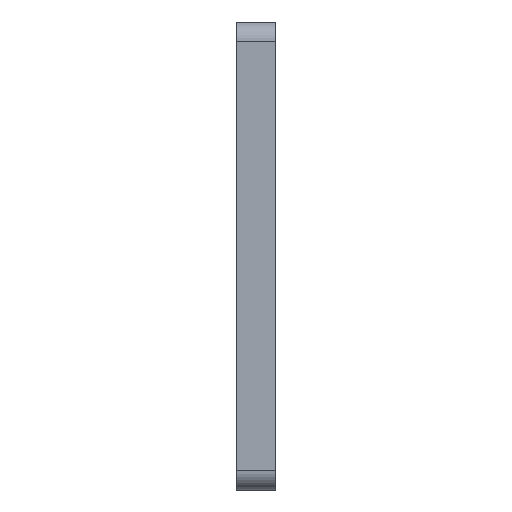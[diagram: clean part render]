
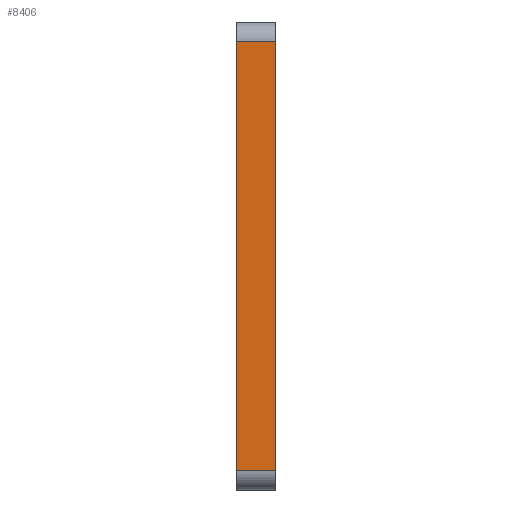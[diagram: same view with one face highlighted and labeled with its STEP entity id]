
A CAD part, left-side view. The second image highlights one B-rep face of the part: STEP entity #8406.
In plain terms, the highlighted planar face has unit normal (-1, 0, 0).
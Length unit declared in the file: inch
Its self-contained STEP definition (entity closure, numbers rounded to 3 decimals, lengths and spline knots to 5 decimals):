
#893 = LINE ( 'NONE', #4911, #11626 ) ;
#903 = VERTEX_POINT ( 'NONE', #6613 ) ;
#1820 = EDGE_CURVE ( 'NONE', #903, #2501, #6096, .T. ) ;
#2080 = DIRECTION ( 'NONE',  ( -1., 0., 0. ) ) ;
#2501 = VERTEX_POINT ( 'NONE', #10980 ) ;
#2995 = DIRECTION ( 'NONE',  ( 0., 0., 1. ) ) ;
#2998 = EDGE_CURVE ( 'NONE', #2501, #8758, #7030, .T. ) ;
#3398 = EDGE_CURVE ( 'NONE', #4552, #8758, #893, .T. ) ;
#3435 = VECTOR ( 'NONE', #10118, 39.37008 ) ;
#3464 = ORIENTED_EDGE ( 'NONE', *, *, #3398, .F. ) ;
#3520 = EDGE_LOOP ( 'NONE', ( #3464, #7327, #4851, #4670 ) ) ;
#3700 = VECTOR ( 'NONE', #6038, 39.37008 ) ;
#3712 = AXIS2_PLACEMENT_3D ( 'NONE', #5107, #2080, #2995 ) ;
#3720 = VECTOR ( 'NONE', #7229, 39.37008 ) ;
#4360 = EDGE_CURVE ( 'NONE', #903, #4552, #9214, .T. ) ;
#4552 = VERTEX_POINT ( 'NONE', #8054 ) ;
#4670 = ORIENTED_EDGE ( 'NONE', *, *, #2998, .T. ) ;
#4851 = ORIENTED_EDGE ( 'NONE', *, *, #1820, .T. ) ;
#4911 = CARTESIAN_POINT ( 'NONE',  ( -5., 0.25, -1.375 ) ) ;
#4967 = CARTESIAN_POINT ( 'NONE',  ( -5., 0.25, 1.375 ) ) ;
#5107 = CARTESIAN_POINT ( 'NONE',  ( -5., 0., -1.375 ) ) ;
#6038 = DIRECTION ( 'NONE',  ( 0., 1., 0. ) ) ;
#6096 = LINE ( 'NONE', #11105, #3435 ) ;
#6613 = CARTESIAN_POINT ( 'NONE',  ( -5., 0., -1.375 ) ) ;
#7030 = LINE ( 'NONE', #9829, #3700 ) ;
#7229 = DIRECTION ( 'NONE',  ( 0., 1., 0. ) ) ;
#7327 = ORIENTED_EDGE ( 'NONE', *, *, #4360, .F. ) ;
#8054 = CARTESIAN_POINT ( 'NONE',  ( -5., 0.25, -1.375 ) ) ;
#8406 = ADVANCED_FACE ( 'NONE', ( #10178 ), #12085, .T. ) ;
#8758 = VERTEX_POINT ( 'NONE', #4967 ) ;
#8937 = DIRECTION ( 'NONE',  ( 0., 0., 1. ) ) ;
#8960 = CARTESIAN_POINT ( 'NONE',  ( -5., 0., -1.375 ) ) ;
#9214 = LINE ( 'NONE', #8960, #3720 ) ;
#9829 = CARTESIAN_POINT ( 'NONE',  ( -5., 0., 1.375 ) ) ;
#10118 = DIRECTION ( 'NONE',  ( 0., 0., 1. ) ) ;
#10178 = FACE_OUTER_BOUND ( 'NONE', #3520, .T. ) ;
#10980 = CARTESIAN_POINT ( 'NONE',  ( -5., 0., 1.375 ) ) ;
#11105 = CARTESIAN_POINT ( 'NONE',  ( -5., 0., -1.375 ) ) ;
#11626 = VECTOR ( 'NONE', #8937, 39.37008 ) ;
#12085 = PLANE ( 'NONE',  #3712 ) ;
